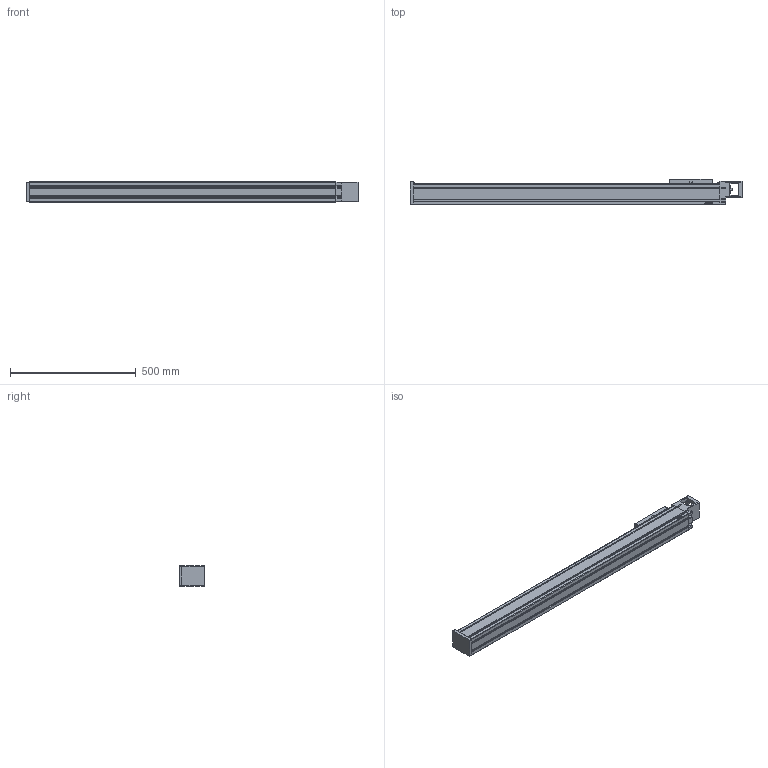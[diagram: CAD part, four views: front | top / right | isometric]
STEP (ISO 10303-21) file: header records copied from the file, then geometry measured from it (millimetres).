
FILE_DESCRIPTION(/* description */ (''),/* implementation_level */ '2;1');
FILE_NAME(/* name */ 'D:\混合母檔20191031\混和母檔\混和母檔\bin\Debug\Download\3D\KU80-10C-1000AF0\KU80-10C-1000AF0.stp',/* time_stamp */ '2019-11-04T17:11:39+08:00',/* author */ ('user'),/* organization */ (''),/* preprocessor_version */ 'ST-DEVELOPER v16.13',/* originating_system */ 'Autodesk Inventor 2018',/* authorisation */ '');
FILE_SCHEMA (('AUTOMOTIVE_DESIGN { 1 0 10303 214 3 1 1 }'));
Length unit declared in the file: millimetre
Products named in the file (3): KU80-10C-1000AF0; KU80-F0-BP; KU80-SL
Assembly tree (2 placements, depth 2):
  KU80-10C-1000AF0
    KU80-F0-BP
    KU80-SL
Bounding box: 1320 x 103 x 80 mm (x, y, z)
Volume: 8316197 mm3; surface area: 698778.5 mm2
Topology: 2 solids, 10 shells, 862 faces, 2315 edges, 1508 vertices
Faces by surface type: plane 509, bspline 136, cylinder 104, cone 81, torus 28, sphere 4
Full cylindrical faces by diameter (mm): 2.459 x4, 2.729 x4, 3 x4, 3.242 x4, 3.5 x4, 4.134 x16, 5 x4, 5.5 x8, 5.6 x2, 8 x1, 8.5 x4, 12 x1, 46.5 x1
Entity records: 27990 total; most frequent: CARTESIAN_POINT 7413, ORIENTED_EDGE 4362, DIRECTION 3790, EDGE_CURVE 2181, VERTEX_POINT 1469, LINE 1298, VECTOR 1298, AXIS2_PLACEMENT_3D 1246
